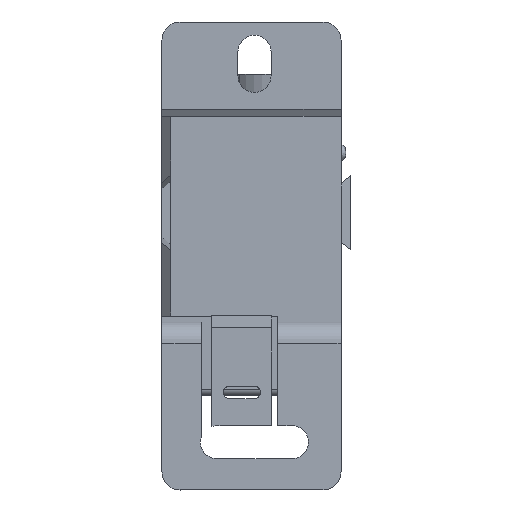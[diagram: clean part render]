
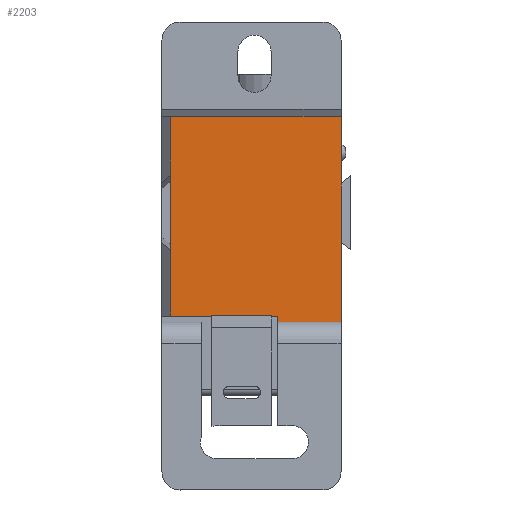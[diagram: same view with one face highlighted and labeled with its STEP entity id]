
A CAD part, top view. The second image highlights one B-rep face of the part: STEP entity #2203.
In plain terms, the highlighted planar face has unit normal (0, 0, 1).
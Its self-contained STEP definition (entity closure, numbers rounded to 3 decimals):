
#1881=PLANE('',#10035);
#2203=ADVANCED_FACE('',(#2765),#1881,.F.);
#2765=FACE_OUTER_BOUND('',#3161,.T.);
#3161=EDGE_LOOP('',(#5510,#5511,#5512,#5513,#5514,#5515,#5516,#5517,#5518,
#5519));
#3964=LINE('',#13042,#4701);
#3971=LINE('',#13056,#4708);
#3994=LINE('',#13112,#4731);
#3999=LINE('',#13134,#4736);
#4000=LINE('',#13136,#4737);
#4001=LINE('',#13138,#4738);
#4002=LINE('',#13140,#4739);
#4003=LINE('',#13142,#4740);
#4004=LINE('',#13144,#4741);
#4005=LINE('',#13146,#4742);
#4701=VECTOR('',#10797,1.);
#4708=VECTOR('',#10812,1.);
#4731=VECTOR('',#10845,1.);
#4736=VECTOR('',#10864,1.);
#4737=VECTOR('',#10865,1.);
#4738=VECTOR('',#10866,1.);
#4739=VECTOR('',#10867,1.);
#4740=VECTOR('',#10868,1.);
#4741=VECTOR('',#10869,1.);
#4742=VECTOR('',#10870,1.);
#5510=ORIENTED_EDGE('',*,*,#8706,.F.);
#5511=ORIENTED_EDGE('',*,*,#8717,.F.);
#5512=ORIENTED_EDGE('',*,*,#8718,.T.);
#5513=ORIENTED_EDGE('',*,*,#8719,.T.);
#5514=ORIENTED_EDGE('',*,*,#8720,.T.);
#5515=ORIENTED_EDGE('',*,*,#8721,.F.);
#5516=ORIENTED_EDGE('',*,*,#8722,.F.);
#5517=ORIENTED_EDGE('',*,*,#8723,.T.);
#5518=ORIENTED_EDGE('',*,*,#8678,.F.);
#5519=ORIENTED_EDGE('',*,*,#8671,.T.);
#7882=VERTEX_POINT('',#13041);
#7883=VERTEX_POINT('',#13043);
#7886=VERTEX_POINT('',#13057);
#7913=VERTEX_POINT('',#13111);
#7924=VERTEX_POINT('',#13135);
#7925=VERTEX_POINT('',#13137);
#7926=VERTEX_POINT('',#13139);
#7927=VERTEX_POINT('',#13141);
#7928=VERTEX_POINT('',#13143);
#7929=VERTEX_POINT('',#13145);
#8671=EDGE_CURVE('',#7883,#7882,#3964,.T.);
#8678=EDGE_CURVE('',#7883,#7886,#3971,.T.);
#8706=EDGE_CURVE('',#7913,#7882,#3994,.T.);
#8717=EDGE_CURVE('',#7924,#7913,#3999,.T.);
#8718=EDGE_CURVE('',#7924,#7925,#4000,.T.);
#8719=EDGE_CURVE('',#7925,#7926,#4001,.T.);
#8720=EDGE_CURVE('',#7926,#7927,#4002,.T.);
#8721=EDGE_CURVE('',#7928,#7927,#4003,.T.);
#8722=EDGE_CURVE('',#7929,#7928,#4004,.T.);
#8723=EDGE_CURVE('',#7929,#7886,#4005,.T.);
#10035=AXIS2_PLACEMENT_3D('',#13147,#10871,#10872);
#10797=DIRECTION('',(0.,1.,0.));
#10812=DIRECTION('',(0.,-1.,0.));
#10845=DIRECTION('',(0.,-1.,0.));
#10864=DIRECTION('',(1.,0.,0.));
#10865=DIRECTION('',(0.,-1.,0.));
#10866=DIRECTION('',(0.,-1.,0.));
#10867=DIRECTION('',(0.,-1.,0.));
#10868=DIRECTION('',(-1.,0.,0.));
#10869=DIRECTION('',(0.,1.,0.));
#10870=DIRECTION('',(1.,0.,0.));
#10871=DIRECTION('',(0.,0.,-1.));
#10872=DIRECTION('',(0.,-1.,0.));
#13041=CARTESIAN_POINT('',(14.9,-26.787,-6.25));
#13042=CARTESIAN_POINT('',(14.9,-36.687,-6.25));
#13043=CARTESIAN_POINT('',(14.9,-36.687,-6.25));
#13056=CARTESIAN_POINT('',(14.9,-36.687,-6.25));
#13057=CARTESIAN_POINT('',(14.9,-49.937,-6.25));
#13111=CARTESIAN_POINT('',(14.9,-14.537,-6.25));
#13112=CARTESIAN_POINT('',(14.9,-14.537,-6.25));
#13134=CARTESIAN_POINT('',(-13.4,-14.537,-6.25));
#13135=CARTESIAN_POINT('',(-13.4,-14.537,-6.25));
#13136=CARTESIAN_POINT('',(-13.4,-14.537,-6.25));
#13137=CARTESIAN_POINT('',(-13.4,-25.486,-6.25));
#13138=CARTESIAN_POINT('',(-13.4,-25.486,-6.25));
#13139=CARTESIAN_POINT('',(-13.4,-37.987,-6.25));
#13140=CARTESIAN_POINT('',(-13.4,-37.987,-6.25));
#13141=CARTESIAN_POINT('',(-13.4,-48.937,-6.25));
#13142=CARTESIAN_POINT('',(4.4,-48.937,-6.25));
#13143=CARTESIAN_POINT('',(4.4,-48.937,-6.25));
#13144=CARTESIAN_POINT('',(4.4,-49.937,-6.25));
#13145=CARTESIAN_POINT('',(4.4,-49.937,-6.25));
#13146=CARTESIAN_POINT('',(4.4,-49.937,-6.25));
#13147=CARTESIAN_POINT('',(14.9,-14.537,-6.25));
